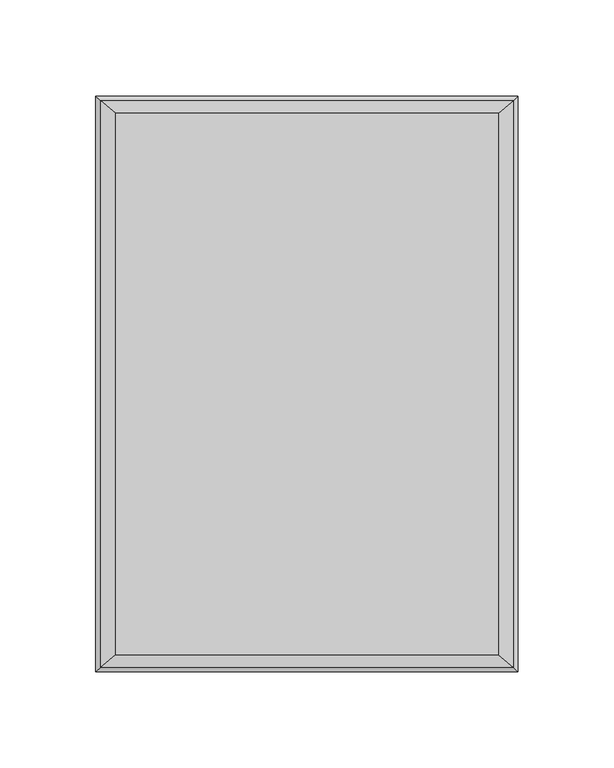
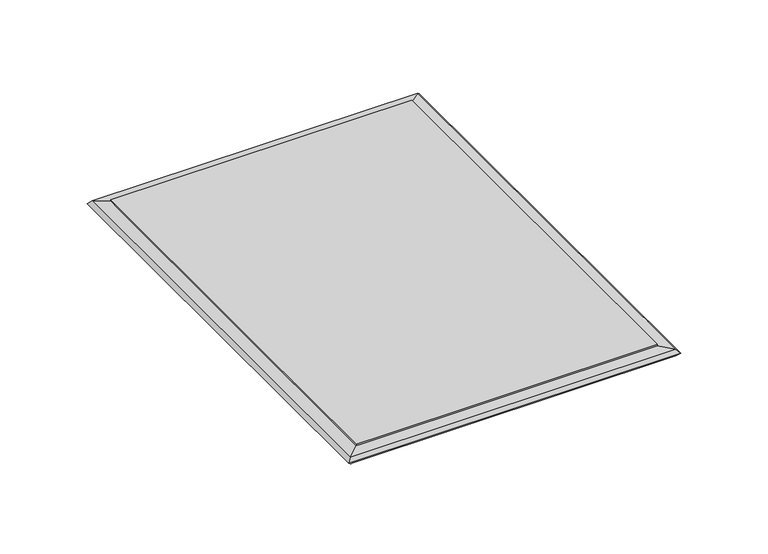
"""IFC4 building model written with IfcOpenShell, lengths in millimetres: geographic element geometry, Enscape AssetDefinition - Clipboard 001 : Enscape AssetDefinition - Clipboard 001."""

from ifc_helpers import new_model, si_unit, origin, place, context, project, spatial, triangles, source, transform, mapped, element, save


def geographic_element_1c3b3942(model_context):
    return source(origin(), model_context, "Body", "Tessellation", [
        triangles([(99.6936423, 140.995291, 6.7896116), (99.6936423, -140.995291, 5.7119708), (99.6936423, -140.995291, 6.7896116), (-99.6936423, 140.995291, 5.7119708), (-99.6936423, 140.995291, 6.7896116), (99.6936423, 140.995291, 5.7119708), (-99.6936423, -140.995291, 6.7896116), (-99.6936423, -140.995291, 5.7119708), (-107.8685248, -147.9073872, 4.6884493), (-107.8685248, 147.9073872, 0.0), (107.8685248, -147.9073872, 0.0), (107.8685248, 147.9073872, 0.0), (-109.9611387, -150.0000102, 2.3442246), (-107.8685248, -147.9073872, 0.0), (107.8685248, -147.9073872, 4.6884493), (107.8685248, 147.9073872, 4.6884493), (109.9611387, -150.0000102, 2.3442246), (109.9611387, 150.0000102, 2.3442246), (-107.8685248, 147.9073872, 4.6884493), (-109.9611387, 150.0000102, 2.3442246)], [[18, 20, 19], [17, 11, 12], [14, 11, 17], [15, 17, 18], [20, 10, 14], [13, 9, 19], [12, 10, 20], [17, 15, 9], [10, 12, 11], [18, 19, 16], [17, 12, 18], [14, 17, 13], [15, 18, 16], [20, 14, 13], [13, 19, 20], [12, 20, 18], [17, 9, 13], [10, 11, 14], [6, 16, 19], [4, 19, 9], [8, 9, 15], [2, 15, 16], [4, 8, 7], [7, 8, 2], [4, 5, 1], [1, 3, 2], [5, 7, 3], [6, 19, 4], [4, 9, 8], [8, 15, 2], [2, 16, 6], [4, 7, 5], [7, 2, 3], [4, 1, 6], [1, 2, 6], [5, 3, 1]]),
    ])


if __name__ == "__main__":
    model = new_model("IFC4")
    model_context = context("Model", 3, world=origin())
    ifc_project = project(units=[si_unit("LENGTHUNIT", "METRE", prefix="MILLI")], contexts=[model_context])
    site = spatial("IfcSite", under=ifc_project)
    building = spatial("IfcBuilding", under=site)
    placement = place(None, origin())
    geographic_element_shape = geographic_element_1c3b3942(model_context)
    element("IfcGeographicElement", 1, ObjectType="Enscape AssetDefinition - Clipboard 001 : Enscape AssetDefinition - Clipboard 001", at=placement, inside=building, context=model_context, shape_type="MappedRepresentation", body=[
        mapped(geographic_element_shape, transform((0.0, 0.0, 0.0), x_axis=(1.0, 0.0, 0.0), y_axis=(0.0, 1.0, 0.0), z_axis=(0.0, 0.0, 1.0))),
    ])
    save(model, "model.ifc")
